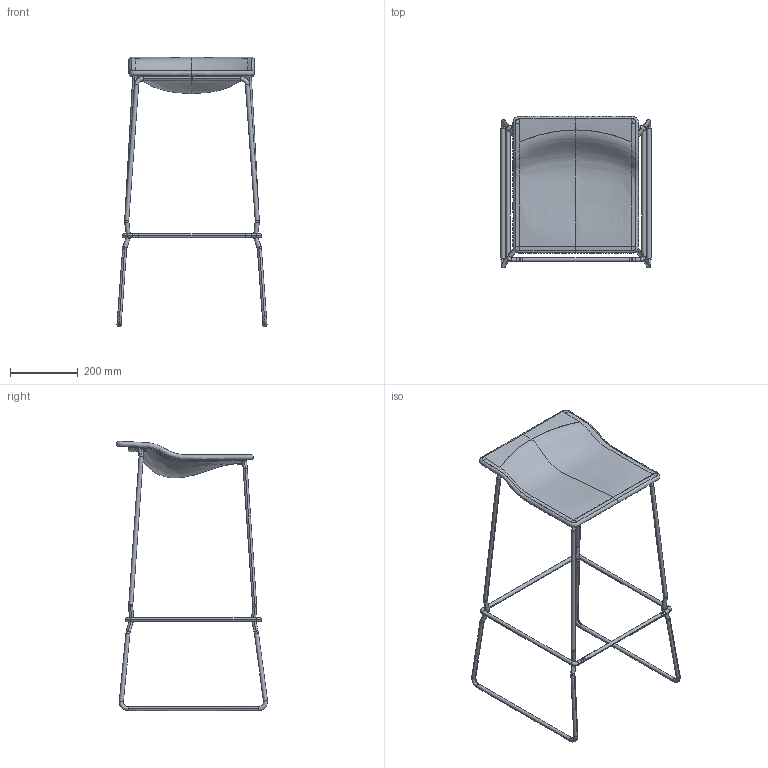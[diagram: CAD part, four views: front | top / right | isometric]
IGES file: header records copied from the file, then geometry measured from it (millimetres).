
Start section: SolidWorks IGES file using analytic representation for surfaces
Global section: file name: D:\VICCARBE\PRODUCTOS\FAMILIAS 2D - 3D (PRODUCTOS VICCARBE)\3D (IGES + STL + DWG)\01-LAST MINUTE\01-IGES\SILLA LMA_CHAIR LMA.IGS; native system: SolidWorks 2009; preprocessor: SolidWorks 2009; author: RUBEN; date: 100524.123319; units: millimetre
Bounding box: 442 x 445.41 x 794.33 mm (x, y, z)
Surface area: 596004.1 mm2 (no closed solid volume)
Topology: 0 solids, 0 shells, 678 faces, 9307 edges, 9299 vertices
Faces by surface type: bspline 580, revolution 98
